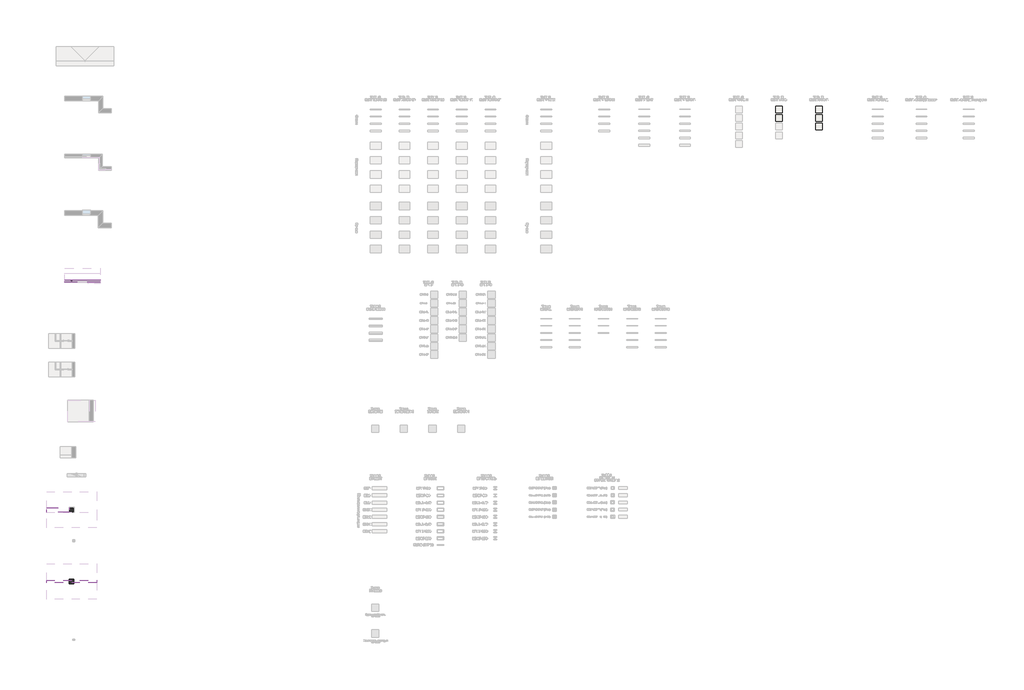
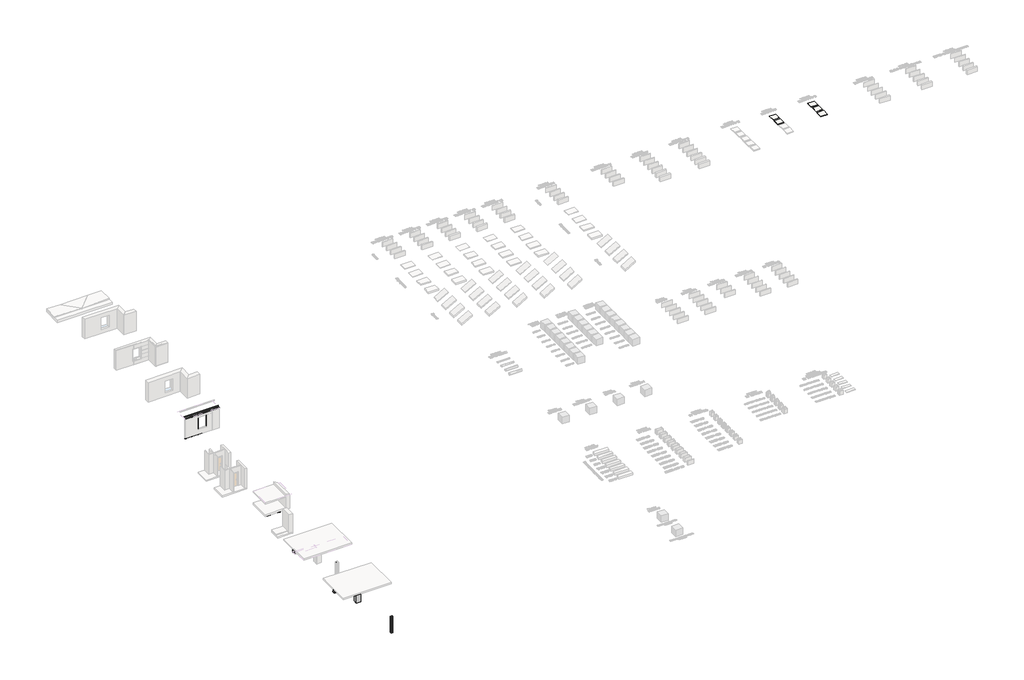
# One storey, part 6 of 35: 8 beams, 6 columns, 5 roofs, 1 slab.
"""IFC4 building model written with IfcOpenShell, lengths in millimetres."""

from ifc_helpers import new_model, si_unit, point, frame, frame_2d, origin, origin_with_axes, place, context, project, spatial, polyline, circle_curve, ellipse_curve, trimmed, segment, composite_curve, outline, extrude, faceted_brep, transform, mapped, element, save
from ifc_brep_helpers import plane_surface, cylinder_surface, revolved_surface, advanced_brep
from components import beam_3bce2fc1, c300_ace66113, c300_2f88b8a5, i_20k2_d5cf9b9c

model = new_model("IFC4")

# Units and contexts
model_context = context("Model", 3, world=origin())
ifc_project = project(units=[si_unit("LENGTHUNIT", "METRE", prefix="MILLI")], contexts=[model_context])

# Site, building, storey
site = spatial("IfcSite", under=ifc_project)
building = spatial("IfcBuilding", under=site)
storey = spatial("IfcBuildingStorey", under=building, Name="Этаж 01", Elevation=0.0)

# Beams
placement = place(None, origin())
element("IfcBeam", 1, ObjectType="C-образный профиль (ГОСТ 8240-89) Балки : [ 10", at=placement, inside=storey, context=model_context, shape_type="AdvancedBrep", body=[
    advanced_brep(
    [(-39580.0301385, -20284.5243348, 46.0), (-39626.0301385, -20284.5243348, 46.0), (-39626.0301385, -20284.5243348, 3004.0), (-39580.0301385, -20284.5243348, 3004.0), (-39626.0301385, -20286.702812, 46.0), (-39626.0301385, -20286.702812, 3004.0), (-39623.3875741, -20289.6814425, 43.3574357), (-39623.3875741, -20289.6814425, 3006.6425643), (-39590.6961219, -20293.6044168, 10.6659835), (-39590.6961219, -20293.6044168, 3039.3340165), (-39584.5301385, -20300.5545546, 4.5), (-39584.5301385, -20300.5545546, 3045.5), (-39584.5301385, -20368.4941149, 4.5), (-39584.5301385, -20368.4941149, 3045.5), (-39590.6961219, -20375.4442528, 10.6659835), (-39590.6961219, -20375.4442528, 3039.3340165), (-39623.3875741, -20379.3672271, 43.3574357), (-39623.3875741, -20379.3672271, 3006.6425643), (-39626.0301385, -20382.3458576, 46.0), (-39626.0301385, -20382.3458576, 3004.0), (-39626.0301385, -20384.5243348, 46.0), (-39626.0301385, -20384.5243348, 3004.0), (-39580.0301385, -20384.5243348, 46.0), (-39580.0301385, -20384.5243348, 3004.0), (-39580.0301385, -20382.3458576, 46.0), (-39580.0301385, -20379.3672271, 43.3574357), (-39580.0301385, -20375.4442528, 10.6659835), (-39580.0301385, -20368.4941149, 4.5), (-39580.0301385, -20300.5545546, 4.5), (-39580.0301385, -20293.6044168, 10.6659835), (-39580.0301385, -20289.6814425, 43.3574357), (-39580.0301385, -20286.702812, 46.0), (-39580.0301385, -20286.702812, 3004.0), (-39580.0301385, -20289.6814425, 3006.6425643), (-39580.0301385, -20293.6044168, 3039.3340165), (-39580.0301385, -20300.5545546, 3045.5), (-39580.0301385, -20368.4941149, 3045.5), (-39580.0301385, -20375.4442528, 3039.3340165), (-39580.0301385, -20379.3672271, 3006.6425643), (-39580.0301385, -20382.3458576, 3004.0)],
    [
        (0, 1),
        (1, 2),
        (2, 3),
        (3, 0),
        (1, 4),
        (4, 5),
        (5, 2),
        (4, 6, ellipse_curve(frame((-39623.0301385, -20286.702812, 43.0), z_axis=(0.7071067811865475, 0.0, 0.7071067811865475), x_axis=(0.7071067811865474, 0.0, -0.7071067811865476)), 4.2426407, 3.0)),
        (6, 7),
        (7, 5, ellipse_curve(frame((-39623.0301385, -20286.702812, 3007.0), z_axis=(0.7071067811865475, 0.0, -0.7071067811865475), x_axis=(-0.7071067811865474, 0.0, -0.7071067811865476)), 4.2426407, 3.0)),
        (6, 8),
        (8, 9),
        (9, 7),
        (8, 10, ellipse_curve(frame((-39591.5301385, -20300.5545546, 11.5), z_axis=(-0.7071067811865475, 0.0, -0.7071067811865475), x_axis=(0.7071067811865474, 0.0, -0.7071067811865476)), 9.8994949, 7.0)),
        (10, 11),
        (11, 9, ellipse_curve(frame((-39591.5301385, -20300.5545546, 3038.5), z_axis=(-0.7071067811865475, 0.0, 0.7071067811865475), x_axis=(-0.7071067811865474, 0.0, -0.7071067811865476)), 9.8994949, 7.0)),
        (10, 12),
        (12, 13),
        (13, 11),
        (12, 14, ellipse_curve(frame((-39591.5301385, -20368.4941149, 11.5), z_axis=(-0.7071067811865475, 0.0, -0.7071067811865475), x_axis=(0.7071067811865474, 0.0, -0.7071067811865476)), 9.8994949, 7.0)),
        (14, 15),
        (15, 13, ellipse_curve(frame((-39591.5301385, -20368.4941149, 3038.5), z_axis=(-0.7071067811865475, 0.0, 0.7071067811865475), x_axis=(-0.7071067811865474, 0.0, -0.7071067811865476)), 9.8994949, 7.0)),
        (14, 16),
        (16, 17),
        (17, 15),
        (16, 18, ellipse_curve(frame((-39623.0301385, -20382.3458576, 43.0), z_axis=(0.7071067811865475, 0.0, 0.7071067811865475), x_axis=(0.7071067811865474, 0.0, -0.7071067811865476)), 4.2426407, 3.0)),
        (18, 19),
        (19, 17, ellipse_curve(frame((-39623.0301385, -20382.3458576, 3007.0), z_axis=(0.7071067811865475, 0.0, -0.7071067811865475), x_axis=(-0.7071067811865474, 0.0, -0.7071067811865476)), 4.2426407, 3.0)),
        (18, 20),
        (20, 21),
        (21, 19),
        (20, 22),
        (22, 23),
        (23, 21),
        (22, 24),
        (24, 25, circle_curve(frame((-39580.0301385, -20382.3458576, 43.0), z_axis=(-1.0, 0.0, 0.0), x_axis=(0.0, 0.0, 1.0)), 3.0)),
        (25, 26),
        (26, 27, circle_curve(frame((-39580.0301385, -20368.4941149, 11.5), z_axis=(1.0, 0.0, 0.0), x_axis=(0.0, 0.0, 1.0)), 7.0)),
        (27, 28),
        (28, 29, circle_curve(frame((-39580.0301385, -20300.5545546, 11.5), z_axis=(1.0, 0.0, 0.0), x_axis=(0.0, 0.0, 1.0)), 7.0)),
        (29, 30),
        (30, 31, circle_curve(frame((-39580.0301385, -20286.702812, 43.0), z_axis=(-1.0, 0.0, 0.0), x_axis=(0.0, 0.0, 1.0)), 3.0)),
        (31, 0),
        (3, 32),
        (32, 33, circle_curve(frame((-39580.0301385, -20286.702812, 3007.0), z_axis=(-1.0, 0.0, 0.0), x_axis=(0.0, 0.0, -1.0)), 3.0)),
        (33, 34),
        (34, 35, circle_curve(frame((-39580.0301385, -20300.5545546, 3038.5), z_axis=(1.0, 0.0, 0.0), x_axis=(0.0, 0.0, -1.0)), 7.0)),
        (35, 36),
        (36, 37, circle_curve(frame((-39580.0301385, -20368.4941149, 3038.5), z_axis=(1.0, 0.0, 0.0), x_axis=(0.0, 0.0, -1.0)), 7.0)),
        (37, 38),
        (38, 39, circle_curve(frame((-39580.0301385, -20382.3458576, 3007.0), z_axis=(-1.0, 0.0, 0.0), x_axis=(0.0, 0.0, -1.0)), 3.0)),
        (39, 23),
        (18, 24),
        (16, 25),
        (14, 26),
        (12, 27),
        (10, 28),
        (8, 29),
        (6, 30),
        (4, 31),
        (5, 32),
        (7, 33),
        (9, 34),
        (11, 35),
        (13, 36),
        (15, 37),
        (17, 38),
        (19, 39),
    ],
    [
        plane_surface(frame((-39603.0301385, -20284.5243348, 3050.0), z_axis=(0.0, 1.0, 0.0), x_axis=(-1.0, 0.0, 0.0))),
        plane_surface(frame((-39626.0301385, -20285.6135734, 3050.0), z_axis=(-1.0, 0.0, 0.0), x_axis=(0.0, -1.0, 0.0))),
        cylinder_surface(frame((-39623.0301385, -20286.702812, 3050.0), z_axis=(0.0, 0.0, -1.0), x_axis=(0.0, -1.0, 0.0)), 3.0),
        plane_surface(frame((-39607.041848, -20291.6429296, 3050.0), z_axis=(-0.11914522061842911, -0.9928768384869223, 0.0), x_axis=(0.9928768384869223, -0.11914522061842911, 0.0))),
        revolved_surface(polyline([(-39584.58000063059, -20301.38857114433, 4.5), (-39584.58000063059, -20301.38857114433, 3045.5)]), (-39591.5301385, -20300.5545546, 3050.0), (0.0, 0.0, -1.0)),
        plane_surface(frame((-39584.5301385, -20334.5243348, 3050.0), z_axis=(-1.0, 0.0, 0.0), x_axis=(0.0, -1.0, 0.0))),
        revolved_surface(polyline([(-39591.5301385, -20375.4941149, 4.5), (-39591.5301385, -20375.4941149, 3045.5)]), (-39591.5301385, -20368.4941149, 3050.0), (0.0, 0.0, -1.0)),
        plane_surface(frame((-39607.041848, -20377.4057399, 3050.0), z_axis=(-0.11914522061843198, 0.9928768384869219, 0.0), x_axis=(-0.9928768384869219, -0.11914522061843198, 0.0))),
        cylinder_surface(frame((-39623.0301385, -20382.3458576, 3050.0), z_axis=(0.0, 0.0, -1.0), x_axis=(-0.9928768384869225, -0.11914522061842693, 0.0)), 3.0),
        plane_surface(frame((-39626.0301385, -20383.4350962, 3050.0), z_axis=(-1.0, 0.0, 0.0), x_axis=(0.0, -1.0, 0.0))),
        plane_surface(frame((-39603.0301385, -20384.5243348, 3050.0), z_axis=(0.0, -1.0, 0.0), x_axis=(1.0, 0.0, 0.0))),
        plane_surface(frame((-39580.0301385, -20334.5243348, 3050.0), z_axis=(1.0, 0.0, 0.0), x_axis=(0.0, 1.0, 0.0))),
        plane_surface(frame((-41475.0301385, -20384.5243348, 46.0), z_axis=(0.0, 0.0, -1.0), x_axis=(1.0, 0.0, 0.0))),
        revolved_surface(polyline([(-39626.03013850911, -20382.3458576, 46.0), (-39580.0301385, -20382.3458576, 46.0)]), (-38975.0301385, -20382.3458576, 43.0), (-1.0, 0.0, 0.0)),
        plane_surface(frame((-41475.0301385, -20379.3672271, 43.3574357), z_axis=(0.0, -0.9928768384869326, -0.11914522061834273), x_axis=(1.0, 0.0, 0.0))),
        cylinder_surface(frame((-38975.0301385, -20368.4941149, 11.5), z_axis=(1.0, 0.0, 0.0), x_axis=(0.0, 0.0, 1.0)), 7.0),
        plane_surface(frame((-41475.0301385, -20368.4941149, 4.5), z_axis=(0.0, 0.0, -1.0), x_axis=(1.0, 0.0, 0.0))),
        cylinder_surface(frame((-38975.0301385, -20300.5545546, 11.5), z_axis=(1.0, 0.0, 0.0), x_axis=(0.0, 0.0, 1.0)), 7.0),
        plane_surface(frame((-41475.0301385, -20293.6044168, 10.6659835), z_axis=(0.0, 0.9928768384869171, -0.1191452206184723), x_axis=(1.0, 0.0, 0.0))),
        revolved_surface(polyline([(-39626.03013850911, -20286.702812, 46.0), (-39580.0301385, -20286.702812, 46.0)]), (-38975.0301385, -20286.702812, 43.0), (-1.0, 0.0, 0.0)),
        plane_surface(frame((-41475.0301385, -20286.702812, 46.0), z_axis=(0.0, 0.0, -1.0), x_axis=(1.0, 0.0, 0.0))),
        plane_surface(frame((-41475.0301385, -20284.5243348, 3004.0), z_axis=(0.0, 0.0, 1.0), x_axis=(1.0, 0.0, 0.0))),
        revolved_surface(polyline([(-39626.03013850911, -20286.702812, 3004.0), (-39580.0301385, -20286.702812, 3004.0)]), (-38975.0301385, -20286.702812, 3007.0), (-1.0, 0.0, 0.0)),
        plane_surface(frame((-41475.0301385, -20289.6814425, 3006.6425643), z_axis=(0.0, 0.9928768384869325, 0.11914522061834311), x_axis=(1.0, 0.0, 0.0))),
        cylinder_surface(frame((-38975.0301385, -20300.5545546, 3038.5), z_axis=(1.0, 0.0, 0.0), x_axis=(0.0, 0.0, -1.0)), 7.0),
        plane_surface(frame((-41475.0301385, -20300.5545546, 3045.5), z_axis=(0.0, 0.0, 1.0), x_axis=(1.0, 0.0, 0.0))),
        cylinder_surface(frame((-38975.0301385, -20368.4941149, 3038.5), z_axis=(1.0, 0.0, 0.0), x_axis=(0.0, 0.0, -1.0)), 7.0),
        plane_surface(frame((-41475.0301385, -20375.4442528, 3039.3340165), z_axis=(0.0, -0.992876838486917, 0.1191452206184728), x_axis=(1.0, 0.0, 0.0))),
        revolved_surface(polyline([(-39626.03013850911, -20382.3458576, 3004.0), (-39580.0301385, -20382.3458576, 3004.0)]), (-38975.0301385, -20382.3458576, 3007.0), (-1.0, 0.0, 0.0)),
        plane_surface(frame((-41475.0301385, -20382.3458576, 3004.0), z_axis=(0.0, 0.0, 1.0), x_axis=(1.0, 0.0, 0.0))),
    ],
    [
        (0, [[1, 2, 3, 4]]),
        (1, [[5, 6, 7, -2]]),
        (2, [[8, 9, 10, -6]]),
        (3, [[11, 12, 13, -9]]),
        (4, [[14, 15, 16, -12]]),
        (5, [[17, 18, 19, -15]]),
        (6, [[20, 21, 22, -18]]),
        (7, [[23, 24, 25, -21]]),
        (8, [[26, 27, 28, -24]]),
        (9, [[29, 30, 31, -27]]),
        (10, [[32, 33, 34, -30]]),
        (11, [[35, 36, 37, 38, 39, 40, 41, 42, 43, -4, 44, 45, 46, 47, 48, 49, 50, 51, 52, -33]]),
        (12, [[53, -35, -32, -29]]),
        (13, [[-53, -26, 54, -36]]),
        (14, [[-54, -23, 55, -37]]),
        (15, [[-55, -20, 56, -38]]),
        (16, [[-56, -17, 57, -39]]),
        (17, [[-57, -14, 58, -40]]),
        (18, [[-58, -11, 59, -41]]),
        (19, [[-59, -8, 60, -42]]),
        (20, [[-60, -5, -1, -43]]),
        (21, [[61, -44, -3, -7]]),
        (22, [[-61, -10, 62, -45]]),
        (23, [[-62, -13, 63, -46]]),
        (24, [[-63, -16, 64, -47]]),
        (25, [[-64, -19, 65, -48]]),
        (26, [[-65, -22, 66, -49]]),
        (27, [[-66, -25, 67, -50]]),
        (28, [[-67, -28, 68, -51]]),
        (29, [[-68, -31, -34, -52]]),
    ],
),
])
element("IfcBeam", 2, ObjectType="C-образный профиль (ГОСТ 8240-89) Балки : [ 10", at=placement, inside=storey, context=model_context, shape_type="AdvancedBrep", body=[
    advanced_brep(
    [(-38370.0301385, -20384.5243348, 46.0), (-38324.0301385, -20384.5243348, 46.0), (-38324.0301385, -20384.5243348, 3004.0), (-38370.0301385, -20384.5243348, 3004.0), (-38324.0301385, -20382.3458576, 46.0), (-38324.0301385, -20382.3458576, 3004.0), (-38326.6727028, -20379.3672271, 43.3574357), (-38326.6727028, -20379.3672271, 3006.6425643), (-38359.364155, -20375.4442528, 10.6659835), (-38359.364155, -20375.4442528, 3039.3340165), (-38365.5301385, -20368.4941149, 4.5), (-38365.5301385, -20368.4941149, 3045.5), (-38365.5301385, -20300.5545546, 4.5), (-38365.5301385, -20300.5545546, 3045.5), (-38359.364155, -20293.6044168, 10.6659835), (-38359.364155, -20293.6044168, 3039.3340165), (-38326.6727028, -20289.6814425, 43.3574357), (-38326.6727028, -20289.6814425, 3006.6425643), (-38324.0301385, -20286.702812, 46.0), (-38324.0301385, -20286.702812, 3004.0), (-38324.0301385, -20284.5243348, 46.0), (-38324.0301385, -20284.5243348, 3004.0), (-38370.0301385, -20284.5243348, 46.0), (-38370.0301385, -20284.5243348, 3004.0), (-38370.0301385, -20382.3458576, 46.0), (-38370.0301385, -20382.3458576, 3004.0), (-38370.0301385, -20379.3672271, 3006.6425643), (-38370.0301385, -20375.4442528, 3039.3340165), (-38370.0301385, -20368.4941149, 3045.5), (-38370.0301385, -20300.5545546, 3045.5), (-38370.0301385, -20293.6044168, 3039.3340165), (-38370.0301385, -20289.6814425, 3006.6425643), (-38370.0301385, -20286.702812, 3004.0), (-38370.0301385, -20286.702812, 46.0), (-38370.0301385, -20289.6814425, 43.3574357), (-38370.0301385, -20293.6044168, 10.6659835), (-38370.0301385, -20300.5545546, 4.5), (-38370.0301385, -20368.4941149, 4.5), (-38370.0301385, -20375.4442528, 10.6659835), (-38370.0301385, -20379.3672271, 43.3574357)],
    [
        (0, 1),
        (1, 2),
        (2, 3),
        (3, 0),
        (1, 4),
        (4, 5),
        (5, 2),
        (4, 6, ellipse_curve(frame((-38327.0301385, -20382.3458576, 43.0), z_axis=(-0.7071067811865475, 0.0, 0.7071067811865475), x_axis=(-0.7071067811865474, 0.0, -0.7071067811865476)), 4.2426407, 3.0)),
        (6, 7),
        (7, 5, ellipse_curve(frame((-38327.0301385, -20382.3458576, 3007.0), z_axis=(-0.7071067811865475, 0.0, -0.7071067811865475), x_axis=(0.7071067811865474, 0.0, -0.7071067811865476)), 4.2426407, 3.0)),
        (6, 8),
        (8, 9),
        (9, 7),
        (8, 10, ellipse_curve(frame((-38358.5301385, -20368.4941149, 11.5), z_axis=(0.7071067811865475, 0.0, -0.7071067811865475), x_axis=(-0.7071067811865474, 0.0, -0.7071067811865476)), 9.8994949, 7.0)),
        (10, 11),
        (11, 9, ellipse_curve(frame((-38358.5301385, -20368.4941149, 3038.5), z_axis=(0.7071067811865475, 0.0, 0.7071067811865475), x_axis=(0.7071067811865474, 0.0, -0.7071067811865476)), 9.8994949, 7.0)),
        (10, 12),
        (12, 13),
        (13, 11),
        (12, 14, ellipse_curve(frame((-38358.5301385, -20300.5545546, 11.5), z_axis=(0.7071067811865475, 0.0, -0.7071067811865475), x_axis=(-0.7071067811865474, 0.0, -0.7071067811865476)), 9.8994949, 7.0)),
        (14, 15),
        (15, 13, ellipse_curve(frame((-38358.5301385, -20300.5545546, 3038.5), z_axis=(0.7071067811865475, 0.0, 0.7071067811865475), x_axis=(0.7071067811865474, 0.0, -0.7071067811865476)), 9.8994949, 7.0)),
        (14, 16),
        (16, 17),
        (17, 15),
        (16, 18, ellipse_curve(frame((-38327.0301385, -20286.702812, 43.0), z_axis=(-0.7071067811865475, 0.0, 0.7071067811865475), x_axis=(-0.7071067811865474, 0.0, -0.7071067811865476)), 4.2426407, 3.0)),
        (18, 19),
        (19, 17, ellipse_curve(frame((-38327.0301385, -20286.702812, 3007.0), z_axis=(-0.7071067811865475, 0.0, -0.7071067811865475), x_axis=(0.7071067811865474, 0.0, -0.7071067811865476)), 4.2426407, 3.0)),
        (18, 20),
        (20, 21),
        (21, 19),
        (20, 22),
        (22, 23),
        (23, 21),
        (24, 0),
        (3, 25),
        (25, 26, circle_curve(frame((-38370.0301385, -20382.3458576, 3007.0), z_axis=(1.0, 0.0, 0.0), x_axis=(0.0, 0.0, -1.0)), 3.0)),
        (26, 27),
        (27, 28, circle_curve(frame((-38370.0301385, -20368.4941149, 3038.5), z_axis=(-1.0, 0.0, 0.0), x_axis=(0.0, 0.0, -1.0)), 7.0)),
        (28, 29),
        (29, 30, circle_curve(frame((-38370.0301385, -20300.5545546, 3038.5), z_axis=(-1.0, 0.0, 0.0), x_axis=(0.0, 0.0, -1.0)), 7.0)),
        (30, 31),
        (31, 32, circle_curve(frame((-38370.0301385, -20286.702812, 3007.0), z_axis=(1.0, 0.0, 0.0), x_axis=(0.0, 0.0, -1.0)), 3.0)),
        (32, 23),
        (22, 33),
        (33, 34, circle_curve(frame((-38370.0301385, -20286.702812, 43.0), z_axis=(1.0, 0.0, 0.0), x_axis=(0.0, 0.0, 1.0)), 3.0)),
        (34, 35),
        (35, 36, circle_curve(frame((-38370.0301385, -20300.5545546, 11.5), z_axis=(-1.0, 0.0, 0.0), x_axis=(0.0, 0.0, 1.0)), 7.0)),
        (36, 37),
        (37, 38, circle_curve(frame((-38370.0301385, -20368.4941149, 11.5), z_axis=(-1.0, 0.0, 0.0), x_axis=(0.0, 0.0, 1.0)), 7.0)),
        (38, 39),
        (39, 24, circle_curve(frame((-38370.0301385, -20382.3458576, 43.0), z_axis=(1.0, 0.0, 0.0), x_axis=(0.0, 0.0, 1.0)), 3.0)),
        (24, 4),
        (39, 6),
        (38, 8),
        (37, 10),
        (36, 12),
        (35, 14),
        (34, 16),
        (33, 18),
        (32, 19),
        (31, 17),
        (30, 15),
        (29, 13),
        (28, 11),
        (27, 9),
        (26, 7),
        (25, 5),
    ],
    [
        plane_surface(frame((-38347.0301385, -20384.5243348, 3050.0), z_axis=(0.0, -1.0, 0.0), x_axis=(1.0, 0.0, 0.0))),
        plane_surface(frame((-38324.0301385, -20383.4350962, 3050.0), z_axis=(1.0, 0.0, 0.0), x_axis=(0.0, 1.0, 0.0))),
        cylinder_surface(frame((-38327.0301385, -20382.3458576, 3050.0), z_axis=(0.0, 0.0, -1.0), x_axis=(0.0, 1.0, 0.0)), 3.0),
        plane_surface(frame((-38343.0184289, -20377.4057399, 3050.0), z_axis=(0.11914522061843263, 0.9928768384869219, 0.0), x_axis=(-0.9928768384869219, 0.11914522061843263, 0.0))),
        revolved_surface(polyline([(-38365.48027636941, -20367.66009835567, 4.5), (-38365.48027636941, -20367.66009835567, 3045.5)]), (-38358.5301385, -20368.4941149, 3050.0), (0.0, 0.0, -1.0)),
        plane_surface(frame((-38365.5301385, -20334.5243348, 3050.0), z_axis=(1.0, 0.0, 0.0), x_axis=(0.0, 1.0, 0.0))),
        revolved_surface(polyline([(-38358.5301385, -20293.5545546, 4.5), (-38358.5301385, -20293.5545546, 3045.5)]), (-38358.5301385, -20300.5545546, 3050.0), (0.0, 0.0, -1.0)),
        plane_surface(frame((-38343.0184289, -20291.6429296, 3050.0), z_axis=(0.11914522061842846, -0.9928768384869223, 0.0), x_axis=(0.9928768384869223, 0.11914522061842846, 0.0))),
        cylinder_surface(frame((-38327.0301385, -20286.702812, 3050.0), z_axis=(0.0, 0.0, -1.0), x_axis=(0.992876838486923, 0.1191452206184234, 0.0)), 3.0),
        plane_surface(frame((-38324.0301385, -20285.6135734, 3050.0), z_axis=(1.0, 0.0, 0.0), x_axis=(0.0, 1.0, 0.0))),
        plane_surface(frame((-38347.0301385, -20284.5243348, 3050.0), z_axis=(0.0, 1.0, 0.0), x_axis=(-1.0, 0.0, 0.0))),
        plane_surface(frame((-38370.0301385, -20334.5243348, 3050.0), z_axis=(-1.0, 0.0, 0.0), x_axis=(0.0, -1.0, 0.0))),
        plane_surface(frame((-41475.0301385, -20384.5243348, 46.0), z_axis=(0.0, 0.0, -1.0), x_axis=(1.0, 0.0, 0.0))),
        revolved_surface(polyline([(-38370.0301385, -20382.3458576, 46.0), (-38324.03013849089, -20382.3458576, 46.0)]), (-38975.0301385, -20382.3458576, 43.0), (-1.0, 0.0, 0.0)),
        plane_surface(frame((-41475.0301385, -20379.3672271, 43.3574357), z_axis=(0.0, -0.9928768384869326, -0.11914522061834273), x_axis=(1.0, 0.0, 0.0))),
        cylinder_surface(frame((-38975.0301385, -20368.4941149, 11.5), z_axis=(1.0, 0.0, 0.0), x_axis=(0.0, 0.0, 1.0)), 7.0),
        plane_surface(frame((-41475.0301385, -20368.4941149, 4.5), z_axis=(0.0, 0.0, -1.0), x_axis=(1.0, 0.0, 0.0))),
        cylinder_surface(frame((-38975.0301385, -20300.5545546, 11.5), z_axis=(1.0, 0.0, 0.0), x_axis=(0.0, 0.0, 1.0)), 7.0),
        plane_surface(frame((-41475.0301385, -20293.6044168, 10.6659835), z_axis=(0.0, 0.9928768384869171, -0.1191452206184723), x_axis=(1.0, 0.0, 0.0))),
        revolved_surface(polyline([(-38370.0301385, -20286.702812, 46.0), (-38324.03013849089, -20286.702812, 46.0)]), (-38975.0301385, -20286.702812, 43.0), (-1.0, 0.0, 0.0)),
        plane_surface(frame((-41475.0301385, -20286.702812, 46.0), z_axis=(0.0, 0.0, -1.0), x_axis=(1.0, 0.0, 0.0))),
        plane_surface(frame((-41475.0301385, -20284.5243348, 3004.0), z_axis=(0.0, 0.0, 1.0), x_axis=(1.0, 0.0, 0.0))),
        revolved_surface(polyline([(-38370.0301385, -20286.702812, 3004.0), (-38324.03013849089, -20286.702812, 3004.0)]), (-38975.0301385, -20286.702812, 3007.0), (-1.0, 0.0, 0.0)),
        plane_surface(frame((-41475.0301385, -20289.6814425, 3006.6425643), z_axis=(0.0, 0.9928768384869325, 0.11914522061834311), x_axis=(1.0, 0.0, 0.0))),
        cylinder_surface(frame((-38975.0301385, -20300.5545546, 3038.5), z_axis=(1.0, 0.0, 0.0), x_axis=(0.0, 0.0, -1.0)), 7.0),
        plane_surface(frame((-41475.0301385, -20300.5545546, 3045.5), z_axis=(0.0, 0.0, 1.0), x_axis=(1.0, 0.0, 0.0))),
        cylinder_surface(frame((-38975.0301385, -20368.4941149, 3038.5), z_axis=(1.0, 0.0, 0.0), x_axis=(0.0, 0.0, -1.0)), 7.0),
        plane_surface(frame((-41475.0301385, -20375.4442528, 3039.3340165), z_axis=(0.0, -0.992876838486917, 0.1191452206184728), x_axis=(1.0, 0.0, 0.0))),
        revolved_surface(polyline([(-38370.0301385, -20382.3458576, 3004.0), (-38324.03013849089, -20382.3458576, 3004.0)]), (-38975.0301385, -20382.3458576, 3007.0), (-1.0, 0.0, 0.0)),
        plane_surface(frame((-41475.0301385, -20382.3458576, 3004.0), z_axis=(0.0, 0.0, 1.0), x_axis=(1.0, 0.0, 0.0))),
    ],
    [
        (0, [[1, 2, 3, 4]]),
        (1, [[5, 6, 7, -2]]),
        (2, [[8, 9, 10, -6]]),
        (3, [[11, 12, 13, -9]]),
        (4, [[14, 15, 16, -12]]),
        (5, [[17, 18, 19, -15]]),
        (6, [[20, 21, 22, -18]]),
        (7, [[23, 24, 25, -21]]),
        (8, [[26, 27, 28, -24]]),
        (9, [[29, 30, 31, -27]]),
        (10, [[32, 33, 34, -30]]),
        (11, [[35, -4, 36, 37, 38, 39, 40, 41, 42, 43, 44, -33, 45, 46, 47, 48, 49, 50, 51, 52]]),
        (12, [[53, -5, -1, -35]]),
        (13, [[-53, -52, 54, -8]]),
        (14, [[-54, -51, 55, -11]]),
        (15, [[-55, -50, 56, -14]]),
        (16, [[-56, -49, 57, -17]]),
        (17, [[-57, -48, 58, -20]]),
        (18, [[-58, -47, 59, -23]]),
        (19, [[-59, -46, 60, -26]]),
        (20, [[-60, -45, -32, -29]]),
        (21, [[61, -31, -34, -44]]),
        (22, [[-61, -43, 62, -28]]),
        (23, [[-62, -42, 63, -25]]),
        (24, [[-63, -41, 64, -22]]),
        (25, [[-64, -40, 65, -19]]),
        (26, [[-65, -39, 66, -16]]),
        (27, [[-66, -38, 67, -13]]),
        (28, [[-67, -37, 68, -10]]),
        (29, [[-68, -36, -3, -7]]),
    ],
),
])
element("IfcBeam", 3, ObjectType="C-образный профиль (ГОСТ 8240-89) Балки : [ 10", at=placement, inside=storey, context=model_context, shape_type="AdvancedBrep", body=[
    advanced_brep(
    [(-40500.5104743, -20384.5243348, 46.0), (-40454.5104743, -20384.5243348, 46.0), (-40454.5104743, -20384.5243348, 3004.0), (-40500.5104743, -20384.5243348, 3004.0), (-40454.5104743, -20382.3458576, 46.0), (-40454.5104743, -20382.3458576, 3004.0), (-40457.1530387, -20379.3672271, 43.3574357), (-40457.1530387, -20379.3672271, 3006.6425643), (-40489.8444909, -20375.4442528, 10.6659835), (-40489.8444909, -20375.4442528, 3039.3340165), (-40496.0104743, -20368.4941149, 4.5), (-40496.0104743, -20368.4941149, 3045.5), (-40496.0104743, -20300.5545546, 4.5), (-40496.0104743, -20300.5545546, 3045.5), (-40489.8444909, -20293.6044168, 10.6659835), (-40489.8444909, -20293.6044168, 3039.3340165), (-40457.1530387, -20289.6814425, 43.3574357), (-40457.1530387, -20289.6814425, 3006.6425643), (-40454.5104743, -20286.702812, 46.0), (-40454.5104743, -20286.702812, 3004.0), (-40454.5104743, -20284.5243348, 46.0), (-40454.5104743, -20284.5243348, 3004.0), (-40500.5104743, -20284.5243348, 46.0), (-40500.5104743, -20284.5243348, 3004.0), (-40500.5104743, -20382.3458576, 46.0), (-40500.5104743, -20382.3458576, 3004.0), (-40500.5104743, -20379.3672271, 3006.6425643), (-40500.5104743, -20375.4442528, 3039.3340165), (-40500.5104743, -20368.4941149, 3045.5), (-40500.5104743, -20300.5545546, 3045.5), (-40500.5104743, -20293.6044168, 3039.3340165), (-40500.5104743, -20289.6814425, 3006.6425643), (-40500.5104743, -20286.702812, 3004.0), (-40500.5104743, -20286.702812, 46.0), (-40500.5104743, -20289.6814425, 43.3574357), (-40500.5104743, -20293.6044168, 10.6659835), (-40500.5104743, -20300.5545546, 4.5), (-40500.5104743, -20368.4941149, 4.5), (-40500.5104743, -20375.4442528, 10.6659835), (-40500.5104743, -20379.3672271, 43.3574357)],
    [
        (0, 1),
        (1, 2),
        (2, 3),
        (3, 0),
        (1, 4),
        (4, 5),
        (5, 2),
        (4, 6, ellipse_curve(frame((-40457.5104743, -20382.3458576, 43.0), z_axis=(-0.7071067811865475, 0.0, 0.7071067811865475), x_axis=(-0.7071067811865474, 0.0, -0.7071067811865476)), 4.2426407, 3.0)),
        (6, 7),
        (7, 5, ellipse_curve(frame((-40457.5104743, -20382.3458576, 3007.0), z_axis=(-0.7071067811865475, 0.0, -0.7071067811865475), x_axis=(0.7071067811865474, 0.0, -0.7071067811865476)), 4.2426407, 3.0)),
        (6, 8),
        (8, 9),
        (9, 7),
        (8, 10, ellipse_curve(frame((-40489.0104743, -20368.4941149, 11.5), z_axis=(0.7071067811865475, 0.0, -0.7071067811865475), x_axis=(-0.7071067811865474, 0.0, -0.7071067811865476)), 9.8994949, 7.0)),
        (10, 11),
        (11, 9, ellipse_curve(frame((-40489.0104743, -20368.4941149, 3038.5), z_axis=(0.7071067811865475, 0.0, 0.7071067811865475), x_axis=(0.7071067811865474, 0.0, -0.7071067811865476)), 9.8994949, 7.0)),
        (10, 12),
        (12, 13),
        (13, 11),
        (12, 14, ellipse_curve(frame((-40489.0104743, -20300.5545546, 11.5), z_axis=(0.7071067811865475, 0.0, -0.7071067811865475), x_axis=(-0.7071067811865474, 0.0, -0.7071067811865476)), 9.8994949, 7.0)),
        (14, 15),
        (15, 13, ellipse_curve(frame((-40489.0104743, -20300.5545546, 3038.5), z_axis=(0.7071067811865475, 0.0, 0.7071067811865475), x_axis=(0.7071067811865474, 0.0, -0.7071067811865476)), 9.8994949, 7.0)),
        (14, 16),
        (16, 17),
        (17, 15),
        (16, 18, ellipse_curve(frame((-40457.5104743, -20286.702812, 43.0), z_axis=(-0.7071067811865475, 0.0, 0.7071067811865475), x_axis=(-0.7071067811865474, 0.0, -0.7071067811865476)), 4.2426407, 3.0)),
        (18, 19),
        (19, 17, ellipse_curve(frame((-40457.5104743, -20286.702812, 3007.0), z_axis=(-0.7071067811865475, 0.0, -0.7071067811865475), x_axis=(0.7071067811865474, 0.0, -0.7071067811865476)), 4.2426407, 3.0)),
        (18, 20),
        (20, 21),
        (21, 19),
        (20, 22),
        (22, 23),
        (23, 21),
        (24, 0),
        (3, 25),
        (25, 26, circle_curve(frame((-40500.5104743, -20382.3458576, 3007.0), z_axis=(1.0, 0.0, 0.0), x_axis=(0.0, 0.0, -1.0)), 3.0)),
        (26, 27),
        (27, 28, circle_curve(frame((-40500.5104743, -20368.4941149, 3038.5), z_axis=(-1.0, 0.0, 0.0), x_axis=(0.0, 0.0, -1.0)), 7.0)),
        (28, 29),
        (29, 30, circle_curve(frame((-40500.5104743, -20300.5545546, 3038.5), z_axis=(-1.0, 0.0, 0.0), x_axis=(0.0, 0.0, -1.0)), 7.0)),
        (30, 31),
        (31, 32, circle_curve(frame((-40500.5104743, -20286.702812, 3007.0), z_axis=(1.0, 0.0, 0.0), x_axis=(0.0, 0.0, -1.0)), 3.0)),
        (32, 23),
        (22, 33),
        (33, 34, circle_curve(frame((-40500.5104743, -20286.702812, 43.0), z_axis=(1.0, 0.0, 0.0), x_axis=(0.0, 0.0, 1.0)), 3.0)),
        (34, 35),
        (35, 36, circle_curve(frame((-40500.5104743, -20300.5545546, 11.5), z_axis=(-1.0, 0.0, 0.0), x_axis=(0.0, 0.0, 1.0)), 7.0)),
        (36, 37),
        (37, 38, circle_curve(frame((-40500.5104743, -20368.4941149, 11.5), z_axis=(-1.0, 0.0, 0.0), x_axis=(0.0, 0.0, 1.0)), 7.0)),
        (38, 39),
        (39, 24, circle_curve(frame((-40500.5104743, -20382.3458576, 43.0), z_axis=(1.0, 0.0, 0.0), x_axis=(0.0, 0.0, 1.0)), 3.0)),
        (24, 4),
        (39, 6),
        (38, 8),
        (37, 10),
        (36, 12),
        (35, 14),
        (34, 16),
        (33, 18),
        (32, 19),
        (31, 17),
        (30, 15),
        (29, 13),
        (28, 11),
        (27, 9),
        (26, 7),
        (25, 5),
    ],
    [
        plane_surface(frame((-40477.5104743, -20384.5243348, 3050.0), z_axis=(0.0, -1.0, 0.0), x_axis=(1.0, 0.0, 0.0))),
        plane_surface(frame((-40454.5104743, -20383.4350962, 3050.0), z_axis=(1.0, 0.0, 0.0), x_axis=(0.0, 1.0, 0.0))),
        cylinder_surface(frame((-40457.5104743, -20382.3458576, 3050.0), z_axis=(0.0, 0.0, -1.0), x_axis=(0.0, 1.0, 0.0)), 3.0),
        plane_surface(frame((-40473.4987648, -20377.4057399, 3050.0), z_axis=(0.11914522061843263, 0.9928768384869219, 0.0), x_axis=(-0.9928768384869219, 0.11914522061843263, 0.0))),
        revolved_surface(polyline([(-40495.96061216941, -20367.66009835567, 4.5), (-40495.96061216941, -20367.66009835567, 3045.5)]), (-40489.0104743, -20368.4941149, 3050.0), (0.0, 0.0, -1.0)),
        plane_surface(frame((-40496.0104743, -20334.5243348, 3050.0), z_axis=(1.0, 0.0, 0.0), x_axis=(0.0, 1.0, 0.0))),
        revolved_surface(polyline([(-40489.0104743, -20293.5545546, 4.5), (-40489.0104743, -20293.5545546, 3045.5)]), (-40489.0104743, -20300.5545546, 3050.0), (0.0, 0.0, -1.0)),
        plane_surface(frame((-40473.4987648, -20291.6429296, 3050.0), z_axis=(0.11914522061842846, -0.9928768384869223, 0.0), x_axis=(0.9928768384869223, 0.11914522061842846, 0.0))),
        cylinder_surface(frame((-40457.5104743, -20286.702812, 3050.0), z_axis=(0.0, 0.0, -1.0), x_axis=(0.992876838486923, 0.1191452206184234, 0.0)), 3.0),
        plane_surface(frame((-40454.5104743, -20285.6135734, 3050.0), z_axis=(1.0, 0.0, 0.0), x_axis=(0.0, 1.0, 0.0))),
        plane_surface(frame((-40477.5104743, -20284.5243348, 3050.0), z_axis=(0.0, 1.0, 0.0), x_axis=(-1.0, 0.0, 0.0))),
        plane_surface(frame((-40500.5104743, -20334.5243348, 3050.0), z_axis=(-1.0, 0.0, 0.0), x_axis=(0.0, -1.0, 0.0))),
        plane_surface(frame((-41475.0301385, -20384.5243348, 46.0), z_axis=(0.0, 0.0, -1.0), x_axis=(1.0, 0.0, 0.0))),
        revolved_surface(polyline([(-40500.5104743, -20382.3458576, 46.0), (-40454.51047429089, -20382.3458576, 46.0)]), (-38975.0301385, -20382.3458576, 43.0), (-1.0, 0.0, 0.0)),
        plane_surface(frame((-41475.0301385, -20379.3672271, 43.3574357), z_axis=(0.0, -0.9928768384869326, -0.11914522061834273), x_axis=(1.0, 0.0, 0.0))),
        cylinder_surface(frame((-38975.0301385, -20368.4941149, 11.5), z_axis=(1.0, 0.0, 0.0), x_axis=(0.0, 0.0, 1.0)), 7.0),
        plane_surface(frame((-41475.0301385, -20368.4941149, 4.5), z_axis=(0.0, 0.0, -1.0), x_axis=(1.0, 0.0, 0.0))),
        cylinder_surface(frame((-38975.0301385, -20300.5545546, 11.5), z_axis=(1.0, 0.0, 0.0), x_axis=(0.0, 0.0, 1.0)), 7.0),
        plane_surface(frame((-41475.0301385, -20293.6044168, 10.6659835), z_axis=(0.0, 0.9928768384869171, -0.1191452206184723), x_axis=(1.0, 0.0, 0.0))),
        revolved_surface(polyline([(-40500.5104743, -20286.702812, 46.0), (-40454.51047429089, -20286.702812, 46.0)]), (-38975.0301385, -20286.702812, 43.0), (-1.0, 0.0, 0.0)),
        plane_surface(frame((-41475.0301385, -20286.702812, 46.0), z_axis=(0.0, 0.0, -1.0), x_axis=(1.0, 0.0, 0.0))),
        plane_surface(frame((-41475.0301385, -20284.5243348, 3004.0), z_axis=(0.0, 0.0, 1.0), x_axis=(1.0, 0.0, 0.0))),
        revolved_surface(polyline([(-40500.5104743, -20286.702812, 3004.0), (-40454.51047429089, -20286.702812, 3004.0)]), (-38975.0301385, -20286.702812, 3007.0), (-1.0, 0.0, 0.0)),
        plane_surface(frame((-41475.0301385, -20289.6814425, 3006.6425643), z_axis=(0.0, 0.9928768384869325, 0.11914522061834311), x_axis=(1.0, 0.0, 0.0))),
        cylinder_surface(frame((-38975.0301385, -20300.5545546, 3038.5), z_axis=(1.0, 0.0, 0.0), x_axis=(0.0, 0.0, -1.0)), 7.0),
        plane_surface(frame((-41475.0301385, -20300.5545546, 3045.5), z_axis=(0.0, 0.0, 1.0), x_axis=(1.0, 0.0, 0.0))),
        cylinder_surface(frame((-38975.0301385, -20368.4941149, 3038.5), z_axis=(1.0, 0.0, 0.0), x_axis=(0.0, 0.0, -1.0)), 7.0),
        plane_surface(frame((-41475.0301385, -20375.4442528, 3039.3340165), z_axis=(0.0, -0.992876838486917, 0.1191452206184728), x_axis=(1.0, 0.0, 0.0))),
        revolved_surface(polyline([(-40500.5104743, -20382.3458576, 3004.0), (-40454.51047429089, -20382.3458576, 3004.0)]), (-38975.0301385, -20382.3458576, 3007.0), (-1.0, 0.0, 0.0)),
        plane_surface(frame((-41475.0301385, -20382.3458576, 3004.0), z_axis=(0.0, 0.0, 1.0), x_axis=(1.0, 0.0, 0.0))),
    ],
    [
        (0, [[1, 2, 3, 4]]),
        (1, [[5, 6, 7, -2]]),
        (2, [[8, 9, 10, -6]]),
        (3, [[11, 12, 13, -9]]),
        (4, [[14, 15, 16, -12]]),
        (5, [[17, 18, 19, -15]]),
        (6, [[20, 21, 22, -18]]),
        (7, [[23, 24, 25, -21]]),
        (8, [[26, 27, 28, -24]]),
        (9, [[29, 30, 31, -27]]),
        (10, [[32, 33, 34, -30]]),
        (11, [[35, -4, 36, 37, 38, 39, 40, 41, 42, 43, 44, -33, 45, 46, 47, 48, 49, 50, 51, 52]]),
        (12, [[53, -5, -1, -35]]),
        (13, [[-53, -52, 54, -8]]),
        (14, [[-54, -51, 55, -11]]),
        (15, [[-55, -50, 56, -14]]),
        (16, [[-56, -49, 57, -17]]),
        (17, [[-57, -48, 58, -20]]),
        (18, [[-58, -47, 59, -23]]),
        (19, [[-59, -46, 60, -26]]),
        (20, [[-60, -45, -32, -29]]),
        (21, [[61, -31, -34, -44]]),
        (22, [[-61, -43, 62, -28]]),
        (23, [[-62, -42, 63, -25]]),
        (24, [[-63, -41, 64, -22]]),
        (25, [[-64, -40, 65, -19]]),
        (26, [[-65, -39, 66, -16]]),
        (27, [[-66, -38, 67, -13]]),
        (28, [[-67, -37, 68, -10]]),
        (29, [[-68, -36, -3, -7]]),
    ],
),
])
element("IfcBeam", 4, ObjectType="Бетон-Балка прямоугольного сечения : 600 x 400 мм", at=placement, inside=storey, context=model_context, shape_type="SweptSolid", body=[
    extrude(outline(polyline([(-37000.5104743, -51870.4666904), (-37000.5104743, -52470.4666904), (-40200.5104743, -52470.4666904), (-40200.5104743, -51870.4666904), (-37000.5104743, -51870.4666904)])), frame((0.0, 0.0, 2600.0), z_axis=(0.0, 0.0, 1.0), x_axis=(1.0, 0.0, 0.0)), (0.0, 0.0, 1.0), 400.0),
    extrude(outline(polyline([(-44000.5104743, -52470.4666904), (-44000.5104743, -51870.4666904), (-40800.5104743, -51870.4666904), (-40800.5104743, -52470.4666904), (-44000.5104743, -52470.4666904)])), frame((0.0, 0.0, 2600.0), z_axis=(0.0, 0.0, 1.0), x_axis=(1.0, 0.0, 0.0)), (0.0, 0.0, 1.0), 400.0),
])
beam_shape = beam_3bce2fc1(model_context)
element("IfcBeam", 5, ObjectType="C-образный профиль (ГОСТ 8240-89) Балки : [ 10", at=placement, inside=storey, context=model_context, shape_type="MappedRepresentation", body=[
    mapped(beam_shape, transform((-38975.0301385, -20334.5243348, 14.4), x_axis=(1.0, 0.0, 0.0), y_axis=(0.0, 0.0, -1.0), z_axis=(0.0, 1.0, 0.0))),
])
element("IfcBeam", 6, ObjectType="C-образный профиль (ГОСТ 8240-89) Балки : [ 10", at=placement, inside=storey, context=model_context, shape_type="MappedRepresentation", body=[
    mapped(beam_shape, transform((-38975.0301385, -20334.5243348, 3035.6), x_axis=(1.0, 0.0, 0.0), y_axis=(0.0, 0.0, 1.0), z_axis=(0.0, -1.0, 0.0))),
])
element("IfcBeam", 7, ObjectType="C-образный профиль (ГОСТ 8240-89) Балки : [ 10", at=placement, inside=storey, context=model_context, shape_type="MappedRepresentation", body=[
    mapped(beam_shape, transform((-38975.0301385, -20095.243174, 3161.8570967), x_axis=(0.9999999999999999, 0.0, 0.0), y_axis=(0.0, -0.9659258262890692, -0.2588190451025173), z_axis=(0.0, 0.2588190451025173, -0.9659258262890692))),
])
element("IfcBeam", 8, ObjectType="Двутавровая балка с параллельными гранями полок типа Б (ТУ 14-2-24-72) Балки : I 40B2", at=placement, inside=storey, context=model_context, shape_type="SweptSolid", body=[
    extrude(outline(composite_curve([segment(polyline([(-61970.4666904, 2620.0), (-61970.4666904, 2600.0), (-62370.4666904, 2600.0), (-62370.4666904, 2620.0), (-62200.4666904, 2620.0)]), True, "CONTINUOUS"), segment(trimmed(circle_curve(frame_2d((-62200.4666904, 2640.0)), 20.0), [point((-62200.4666904, 2620.0))], [point((-62180.4666904, 2640.0))], True, "CARTESIAN"), True, "CONTINUOUS"), segment(polyline([(-62180.4666904, 2640.0), (-62180.4666904, 2960.0)]), True, "CONTINUOUS"), segment(trimmed(circle_curve(frame_2d((-62200.4666904, 2960.0)), 20.0), [point((-62180.4666904, 2960.0))], [point((-62200.4666904, 2980.0))], True, "CARTESIAN"), True, "CONTINUOUS"), segment(polyline([(-62200.4666904, 2980.0), (-62370.4666904, 2980.0), (-62370.4666904, 3000.0), (-61970.4666904, 3000.0), (-61970.4666904, 2980.0), (-62140.4666904, 2980.0)]), True, "CONTINUOUS"), segment(trimmed(circle_curve(frame_2d((-62140.4666904, 2960.0)), 20.0), [point((-62140.4666904, 2980.0))], [point((-62160.4666904, 2960.0))], True, "CARTESIAN"), True, "CONTINUOUS"), segment(polyline([(-62160.4666904, 2960.0), (-62160.4666904, 2640.0)]), True, "CONTINUOUS"), segment(trimmed(circle_curve(frame_2d((-62140.4666904, 2640.0)), 20.0), [point((-62160.4666904, 2640.0))], [point((-62140.4666904, 2620.0))], True, "CARTESIAN"), True, "CONTINUOUS"), segment(polyline([(-62140.4666904, 2620.0), (-61970.4666904, 2620.0)]), True, "CONTINUOUS")], self_intersect=False)), frame((-44000.5104743, 0.0, 0.0), z_axis=(1.0, 0.0, 0.0), x_axis=(0.0, 1.0, 0.0)), (0.0, 0.0, 1.0), 7000.0),
])

# Columns
element("IfcColumn", 9, ObjectType="ADSK_Колонна бетонная_Квадратная : 600x600", at=placement, inside=storey, context=model_context, shape_type="Brep", body=[
    faceted_brep([(-40200.5104743, -51870.4666904, 0.0), (-40200.5104743, -52470.4666904, 0.0), (-40800.5104743, -52470.4666904, 0.0), (-40800.5104743, -51870.4666904, 0.0), (-40200.5104743, -51870.4666904, 3000.0), (-40200.5104743, -52470.4666904, 3000.0), (-40200.5104743, -52470.4666904, 2600.0), (-40200.5104743, -51870.4666904, 2600.0), (-40800.5104743, -52470.4666904, 3000.0), (-40800.5104743, -52470.4666904, 2600.0), (-40800.5104743, -51870.4666904, 3000.0), (-40800.5104743, -51870.4666904, 2600.0)], [[[0, 1, 2, 3]], [[4, 5, 6, 1, 0, 7]], [[5, 8, 9, 2, 1, 6]], [[8, 10, 11, 3, 2, 9]], [[10, 4, 7, 0, 3, 11]], [[4, 10, 8, 5]]]),
])
element("IfcColumn", 10, ObjectType="ADSK_Колонна бетонная_Квадратная : 600x600", at=placement, inside=storey, context=model_context, shape_type="SweptSolid", body=[
    extrude(outline(polyline([(-40200.5104743, -61870.4666904), (-40200.5104743, -62470.4666904), (-40800.5104743, -62470.4666904), (-40800.5104743, -61870.4666904), (-40200.5104743, -61870.4666904)])), origin_with_axes(), (0.0, 0.0, 1.0), 3000.0),
])
c300_shape = c300_ace66113(model_context)
element("IfcColumn", 11, ObjectType="Тонкостенная-C-колонна : C300", at=placement, inside=storey, context=model_context, shape_type="MappedRepresentation", body=[
    mapped(c300_shape, transform((-40200.5104743, -70289.9839783, 0.0), x_axis=(0.0, 1.0, 0.0), y_axis=(-1.0, 0.0, 0.0), z_axis=(0.0, 0.0, 1.0))),
])
c300_2_shape = c300_2f88b8a5(model_context)
element("IfcColumn", 12, ObjectType="Тонкостенная-C-колонна : C300", at=placement, inside=storey, context=model_context, shape_type="MappedRepresentation", body=[
    mapped(c300_2_shape, transform((-40200.5104743, -70289.9839783, 0.0), x_axis=(0.0, -1.0, 0.0), y_axis=(1.0, 0.0, 0.0), z_axis=(0.0, 0.0, 1.0))),
])
element("IfcColumn", 13, ObjectType="Двутавровая балка (ASTO20-93)-Колонна : I 20K2", at=placement, inside=storey, context=model_context, shape_type="SweptSolid", body=[
    extrude(outline(composite_curve([segment(polyline([(-40600.5104743, -20091.5243348), (-40600.5104743, -20079.5243348), (-40400.5104743, -20079.5243348), (-40400.5104743, -20091.5243348), (-40483.5104743, -20091.5243348)]), True, "CONTINUOUS"), segment(trimmed(circle_curve(frame_2d((-40483.5104743, -20104.5243348)), 13.0), [point((-40483.5104743, -20091.5243348))], [point((-40496.5104743, -20104.5243348))], True, "CARTESIAN"), True, "CONTINUOUS"), segment(polyline([(-40496.5104743, -20104.5243348), (-40496.5104743, -20254.5243348)]), True, "CONTINUOUS"), segment(trimmed(circle_curve(frame_2d((-40483.5104743, -20254.5243348)), 13.0), [point((-40496.5104743, -20254.5243348))], [point((-40483.5104743, -20267.5243348))], True, "CARTESIAN"), True, "CONTINUOUS"), segment(polyline([(-40483.5104743, -20267.5243348), (-40400.5104743, -20267.5243348), (-40400.5104743, -20279.5243348), (-40600.5104743, -20279.5243348), (-40600.5104743, -20267.5243348), (-40517.5104743, -20267.5243348)]), True, "CONTINUOUS"), segment(trimmed(circle_curve(frame_2d((-40517.5104743, -20254.5243348)), 13.0), [point((-40517.5104743, -20267.5243348))], [point((-40504.5104743, -20254.5243348))], True, "CARTESIAN"), True, "CONTINUOUS"), segment(polyline([(-40504.5104743, -20254.5243348), (-40504.5104743, -20104.5243348)]), True, "CONTINUOUS"), segment(trimmed(circle_curve(frame_2d((-40517.5104743, -20104.5243348)), 13.0), [point((-40504.5104743, -20104.5243348))], [point((-40517.5104743, -20091.5243348))], True, "CARTESIAN"), True, "CONTINUOUS"), segment(polyline([(-40517.5104743, -20091.5243348), (-40600.5104743, -20091.5243348)]), True, "CONTINUOUS")], self_intersect=False)), origin_with_axes(), (0.0, 0.0, 1.0), 3088.4232335),
])
i_20k2_shape = i_20k2_d5cf9b9c(model_context)
element("IfcColumn", 14, ObjectType="Двутавровая балка (ASTO20-93)-Колонна : I 20K2", at=placement, inside=storey, context=model_context, shape_type="MappedRepresentation", body=[
    mapped(i_20k2_shape, transform((-40201.0104743, -56495.4666904, 0.0), x_axis=(0.0, 1.0, 0.0), y_axis=(-1.0, 0.0, 0.0), z_axis=(0.0, 0.0, 1.0))),
])

# Roofs
element("IfcRoof", 15, ObjectType="Тизол EURO-РУФ (40мм)", at=placement, inside=storey, context=model_context, shape_type="SweptSolid", body=[
    extrude(outline(polyline([(57850.0, 4200.0), (58750.0, 4200.0), (58750.0, 3300.0), (57850.0, 3300.0), (57850.0, 4200.0)])), origin_with_axes(), (0.0, 0.0, 1.0), 40.0),
])
element("IfcRoof", 16, ObjectType="Тизол EURO-РУФ (50мм)", at=placement, inside=storey, context=model_context, shape_type="SweptSolid", body=[
    extrude(outline(polyline([(57850.0, 3000.0), (58750.0, 3000.0), (58750.0, 2100.0), (57850.0, 2100.0), (57850.0, 3000.0)])), origin_with_axes(), (0.0, 0.0, 1.0), 50.0),
])
element("IfcRoof", 17, ObjectType="Тизол EURO-РУФ В (30мм)", at=placement, inside=storey, context=model_context, shape_type="SweptSolid", body=[
    extrude(outline(polyline([(63450.0, 4200.0), (64350.0, 4200.0), (64350.0, 3300.0), (63450.0, 3300.0), (63450.0, 4200.0)])), origin_with_axes(), (0.0, 0.0, 1.0), 30.0),
])
element("IfcRoof", 18, ObjectType="Тизол EURO-РУФ В (50мм)", at=placement, inside=storey, context=model_context, shape_type="SweptSolid", body=[
    extrude(outline(polyline([(63450.0, 3000.0), (64350.0, 3000.0), (64350.0, 2100.0), (63450.0, 2100.0), (63450.0, 3000.0)])), origin_with_axes(), (0.0, 0.0, 1.0), 50.0),
])
element("IfcRoof", 19, ObjectType="Тизол EURO-РУФ В (80мм)", at=placement, inside=storey, context=model_context, shape_type="SweptSolid", body=[
    extrude(outline(polyline([(63450.0, 1800.0), (64350.0, 1800.0), (64350.0, 900.0), (63450.0, 900.0), (63450.0, 1800.0)])), origin_with_axes(), (0.0, 0.0, 1.0), 80.0),
])

# Slab
element("IfcSlab", 20, ObjectType="ADSK_Плита 300", at=placement, inside=storey, context=model_context, shape_type="SweptSolid", body=[
    extrude(outline(polyline([(-37664.6755112, -36859.6455937), (-37664.6755112, -39859.6455937), (-38064.6755112, -39859.6455937), (-38064.6755112, -36859.6455937), (-37664.6755112, -36859.6455937)])), frame((0.0, 0.0, -600.0), z_axis=(0.0, 0.0, 1.0), x_axis=(1.0, 0.0, 0.0)), (0.0, 0.0, 1.0), 300.0),
    extrude(outline(polyline([(-39064.6755112, -39587.5131439), (-39064.6755112, -39187.5131439), (-38664.6755112, -39187.5131439), (-38664.6755112, -39587.5131439), (-39064.6755112, -39587.5131439)])), frame((0.0, 0.0, -600.0), z_axis=(0.0, 0.0, 1.0), x_axis=(1.0, 0.0, 0.0)), (0.0, 0.0, 1.0), 300.0),
    extrude(outline(polyline([(-40564.6755112, -39587.5131439), (-40564.6755112, -39187.5131439), (-40164.6755112, -39187.5131439), (-40164.6755112, -39587.5131439), (-40564.6755112, -39587.5131439)])), frame((0.0, 0.0, -600.0), z_axis=(0.0, 0.0, 1.0), x_axis=(1.0, 0.0, 0.0)), (0.0, 0.0, 1.0), 300.0),
    extrude(outline(polyline([(-39064.6755112, -38937.5131439), (-39064.6755112, -38537.5131439), (-38664.6755112, -38537.5131439), (-38664.6755112, -38937.5131439), (-39064.6755112, -38937.5131439)])), frame((0.0, 0.0, -600.0), z_axis=(0.0, 0.0, 1.0), x_axis=(1.0, 0.0, 0.0)), (0.0, 0.0, 1.0), 300.0),
    extrude(outline(polyline([(-40564.6755112, -38937.5131439), (-40564.6755112, -38537.5131439), (-40164.6755112, -38537.5131439), (-40164.6755112, -38937.5131439), (-40564.6755112, -38937.5131439)])), frame((0.0, 0.0, -600.0), z_axis=(0.0, 0.0, 1.0), x_axis=(1.0, 0.0, 0.0)), (0.0, 0.0, 1.0), 300.0),
    extrude(outline(polyline([(-39064.6755112, -38287.5131439), (-39064.6755112, -37887.5131439), (-38664.6755112, -37887.5131439), (-38664.6755112, -38287.5131439), (-39064.6755112, -38287.5131439)])), frame((0.0, 0.0, -600.0), z_axis=(0.0, 0.0, 1.0), x_axis=(1.0, 0.0, 0.0)), (0.0, 0.0, 1.0), 300.0),
    extrude(outline(polyline([(-40564.6755112, -38287.5131439), (-40564.6755112, -37887.5131439), (-40164.6755112, -37887.5131439), (-40164.6755112, -38287.5131439), (-40564.6755112, -38287.5131439)])), frame((0.0, 0.0, -600.0), z_axis=(0.0, 0.0, 1.0), x_axis=(1.0, 0.0, 0.0)), (0.0, 0.0, 1.0), 300.0),
    extrude(outline(polyline([(-39064.6755112, -37637.5131439), (-39064.6755112, -37237.5131439), (-38664.6755112, -37237.5131439), (-38664.6755112, -37637.5131439), (-39064.6755112, -37637.5131439)])), frame((0.0, 0.0, -600.0), z_axis=(0.0, 0.0, 1.0), x_axis=(1.0, 0.0, 0.0)), (0.0, 0.0, 1.0), 300.0),
    extrude(outline(polyline([(-40564.6755112, -37637.5131439), (-40564.6755112, -37237.5131439), (-40164.6755112, -37237.5131439), (-40164.6755112, -37637.5131439), (-40564.6755112, -37637.5131439)])), frame((0.0, 0.0, -600.0), z_axis=(0.0, 0.0, 1.0), x_axis=(1.0, 0.0, 0.0)), (0.0, 0.0, 1.0), 300.0),
])

save(model, "model.ifc")
